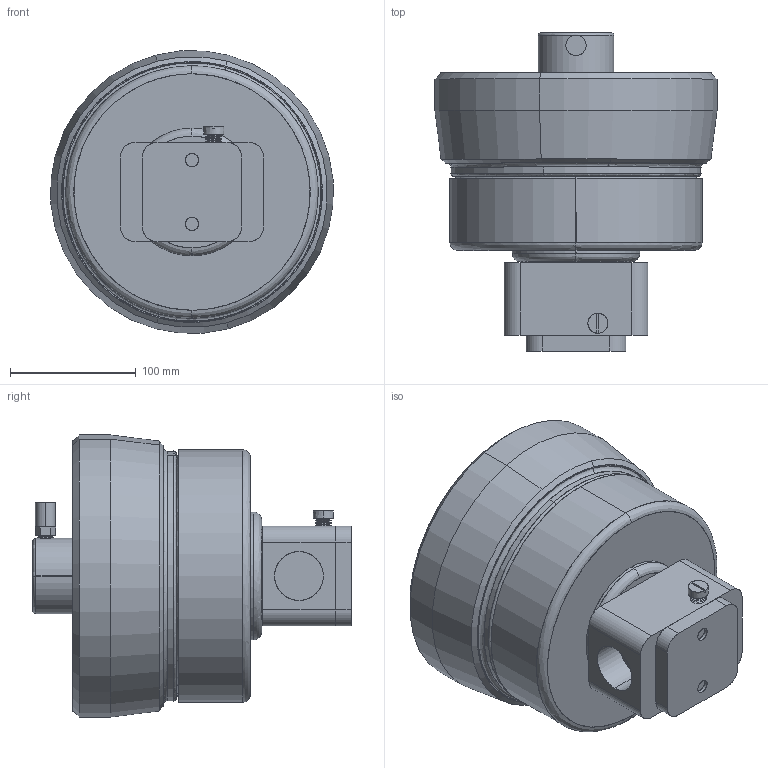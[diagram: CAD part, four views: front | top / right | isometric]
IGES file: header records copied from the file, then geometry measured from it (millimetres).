
Start section: SolidWorks IGES file using analytic representation for surfaces
Global section: file name: \\server\Users\Karen.Bodily\My Documents\DBH140 in line.IGS; native system: SolidWorks 2012; preprocessor: SolidWorks 2012; author: karen.bodily; date: 130919.142549; units: inch
Bounding box: 224.37 x 253.44 x 224.37 mm (x, y, z)
Surface area: 416567.1 mm2 (no closed solid volume)
Topology: 0 solids, 0 shells, 707 faces, 10782 edges, 10780 vertices
Faces by surface type: revolution 533, bspline 174
